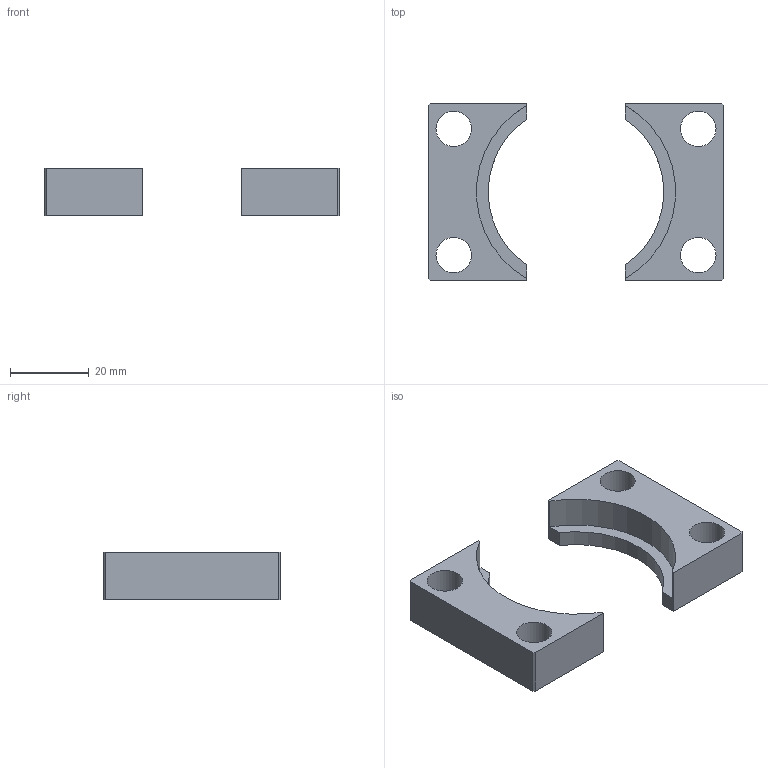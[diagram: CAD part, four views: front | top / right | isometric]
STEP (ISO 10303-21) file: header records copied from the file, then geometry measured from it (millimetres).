
FILE_DESCRIPTION(/* description */ (''),/* implementation_level */ '2;1');
FILE_NAME(/* name */ 'C:\Users\Jefferson\Desktop\Biblioteca Pro Nitro 2024\Flanges\PNB-32-XXX\PNB-32-050.stp',/* time_stamp */ '2024-01-10T17:10:56-03:00',/* author */ ('Jefferson'),/* organization */ (''),/* preprocessor_version */ 'ST-DEVELOPER v18.1',/* originating_system */ 'Autodesk Inventor 2021',/* authorisation */ '');
FILE_SCHEMA (('AUTOMOTIVE_DESIGN { 1 0 10303 214 3 1 1 }'));
Length unit declared in the file: millimetre
Products named in the file (1): PNB-32-050
Bounding box: 75 x 45 x 12 mm (x, y, z)
Volume: 15567.5 mm3; surface area: 7897.7 mm2
Topology: 2 solids, 2 shells, 189 faces, 510 edges, 340 vertices
Faces by surface type: plane 92, bspline 89, cylinder 8
Full cylindrical faces by diameter (mm): 9 x4
Entity records: 6410 total; most frequent: CARTESIAN_POINT 2197, ORIENTED_EDGE 1020, DIRECTION 550, EDGE_CURVE 510, VERTEX_POINT 340, LINE 316, VECTOR 316, EDGE_LOOP 212
